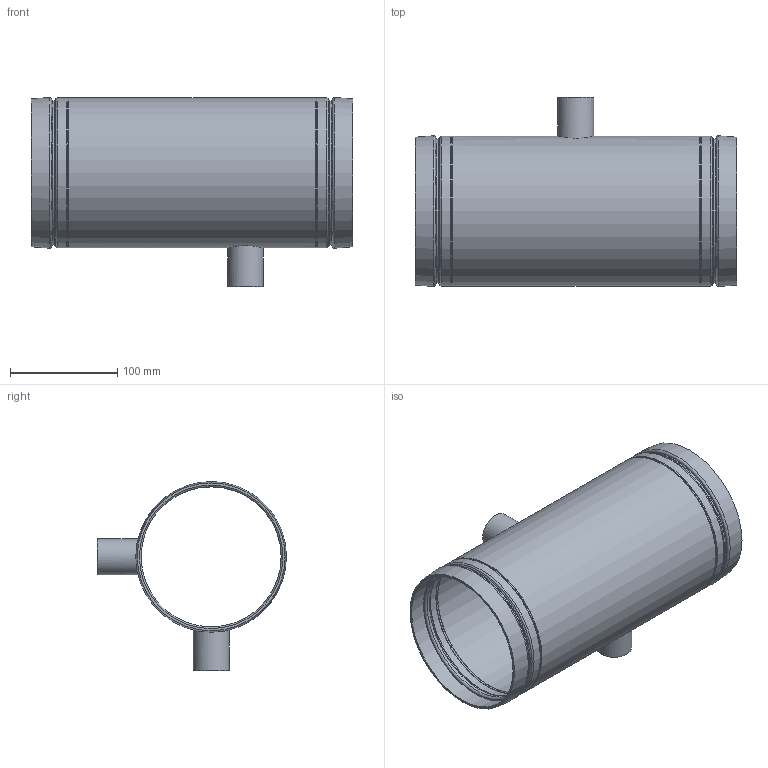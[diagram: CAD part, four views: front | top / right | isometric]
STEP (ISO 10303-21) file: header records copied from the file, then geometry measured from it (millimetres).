
FILE_DESCRIPTION(/* description */ ('VIC STRENGTHIN NIPPLE No E494I','CAx-IF Rec.Pracs.---Representation and Presentation of Product Manufacturing Information (PMI)---4.0---2014-10-13'),/* implementation_level */ '2;1');
FILE_NAME(/* name */ 'C:\ST100\STEP\Victaulic_SS-StrengThin 100_Nipple Instrumentation_No E494I (ST1)\Victaulic_SS-StrengThin 100_Nipple Instrumentation_No E494I (ST1)_05.0 (139.7) (125).stp',/* time_stamp */ '2021-06-17T18:16:30+06:00',/* author */ ('kkamble'),/* organization */ ('Victaulic'),/* preprocessor_version */ 'ST-DEVELOPER v17.2',/* originating_system */ 'Autodesk Inventor 2019',/* authorisation */ '');
FILE_SCHEMA (('AP242_MANAGED_MODEL_BASED_3D_ENGINEERING_MIM_LF { 1 0 10303 442 1 1 4 }'));
Length unit declared in the file: inch
Products named in the file (1): E494I-05.0 (139.7)
Bounding box: 299.72 x 176.15 x 176.15 mm (x, y, z)
Volume: 299971.1 mm3; surface area: 277770.6 mm2
Topology: 1 solids, 1 shells, 60 faces, 196 edges, 146 vertices
Faces by surface type: torus 26, cylinder 16, plane 10, cone 8
Full cylindrical faces by diameter (mm): 21.336 x2, 26.67 x2, 33.401 x2, 130.454 x2, 134.518 x2, 135.636 x3, 139.7 x3
Entity records: 2720 total; most frequent: CARTESIAN_POINT 620, DIRECTION 500, ORIENTED_EDGE 392, AXIS2_PLACEMENT_3D 238, EDGE_CURVE 196, CIRCLE 164, VERTEX_POINT 146, EDGE_LOOP 74
